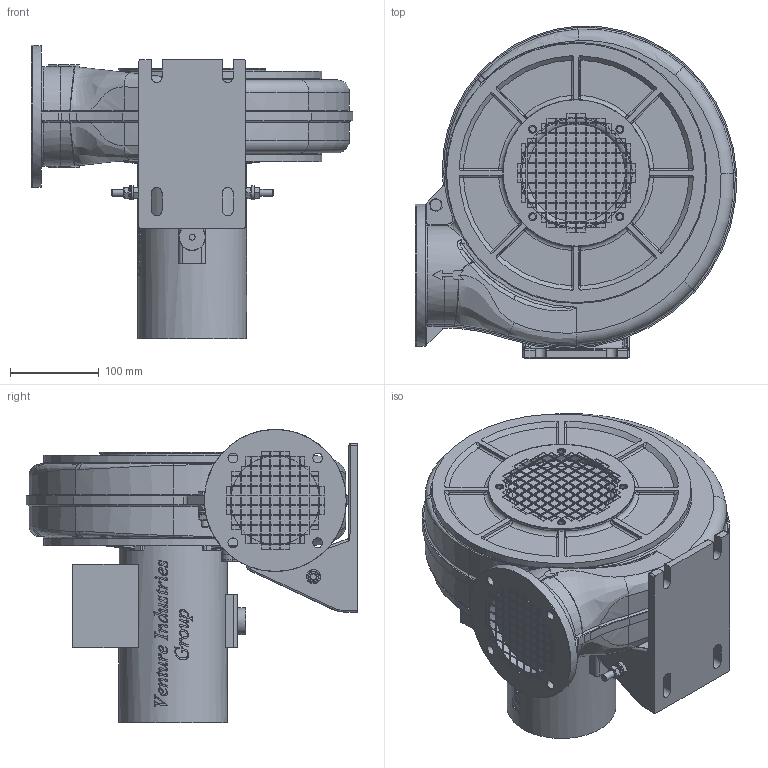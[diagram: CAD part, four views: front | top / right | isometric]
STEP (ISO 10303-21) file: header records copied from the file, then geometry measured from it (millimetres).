
FILE_DESCRIPTION(/* description */ (''),/* implementation_level */ '2;1');
FILE_NAME(/* name */ 'E:\Mariusz\Modele uproszczone\EBA\EBA 30\EBA_X_30X LG270 45519100\EBA_X_30X LG270 45519100.stp',/* time_stamp */ '2020-01-28T16:56:27+01:00',/* author */ ('M.Janczarek'),/* organization */ (''),/* preprocessor_version */ 'ST-DEVELOPER v16.13',/* originating_system */ 'Autodesk Inventor 2018',/* authorisation */ '');
FILE_SCHEMA (('AUTOMOTIVE_DESIGN { 1 0 10303 214 3 1 1 }'));
Products named in the file (1): EBA_X_30X LG270 45519100
Bounding box: 361.5 x 373.5 x 330.2 mm (x, y, z)
Volume: 12630111.7 mm3; surface area: 582431 mm2
Topology: 1 solids, 5 shells, 2648 faces, 7268 edges, 4643 vertices
Faces by surface type: plane 1295, bspline 832, cylinder 300, torus 99, cone 75, sphere 47
Full cylindrical faces by diameter (mm): 6.647 x5, 8 x7, 8.4 x5, 9.2 x4, 11 x4, 11.1 x4, 11.4 x3, 15 x1, 15.2 x1, 16 x5, 30 x1, 100 x1, 122.4 x1, 126 x1, 160 x2, 165 x1, 292 x2
Entity records: 106593 total; most frequent: CARTESIAN_POINT 42041, ORIENTED_EDGE 14244, DIRECTION 10540, EDGE_CURVE 7122, VERTEX_POINT 4607, LINE 4158, VECTOR 4158, AXIS2_PLACEMENT_3D 3191
